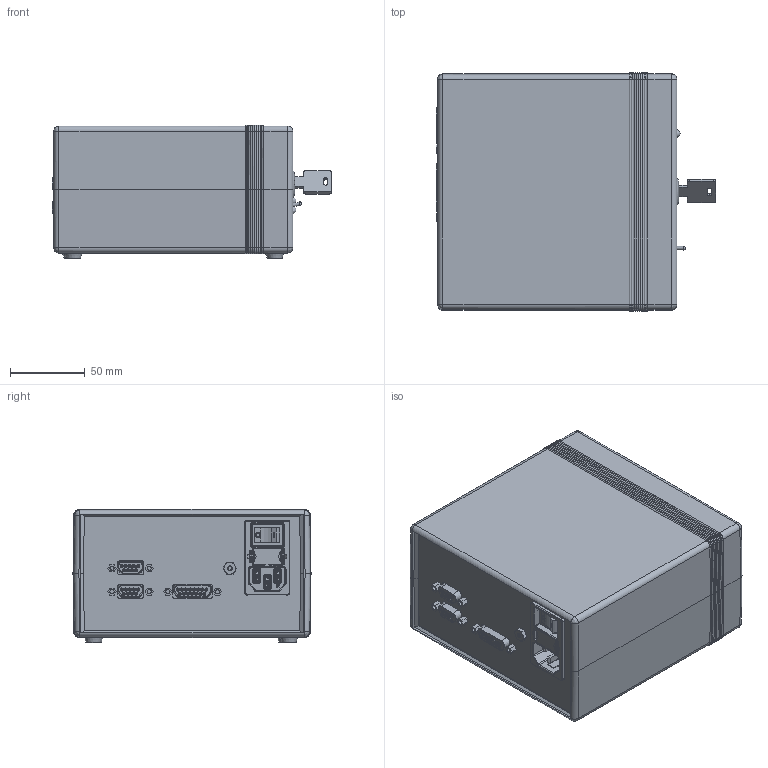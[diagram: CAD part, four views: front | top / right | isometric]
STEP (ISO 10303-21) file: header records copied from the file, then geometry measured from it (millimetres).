
FILE_DESCRIPTION (( 'STEP AP214' ), '1' );
FILE_NAME ('SIU-1000.STEP', '2023-07-24T16:56:14', ( '' ), ( '' ), 'SwSTEP 2.0', 'SolidWorks 2023', '' );
FILE_SCHEMA (( 'AUTOMOTIVE_DESIGN' ));
Products named in the file (1): SIU-1000
Bounding box: 187.13 x 159.65 x 89.51 mm (x, y, z)
Volume: 382575.8 mm3; surface area: 253711 mm2
Topology: 2 solids, 4 shells, 4434 faces, 11810 edges, 7597 vertices
Faces by surface type: plane 3017, bspline 680, cylinder 583, cone 99, sphere 37, torus 18
Full cylindrical faces by diameter (mm): 0.546 x4, 1 x66, 1.4 x5, 2.4 x2, 2.5 x1, 2.578 x5, 2.8 x26, 3.1 x1, 3.175 x1, 3.5 x2, 4 x2, 4.928 x2, 5 x1, 5.004 x1, 5.385 x2, 6.35 x1, 8.4 x8
Entity records: 162431 total; most frequent: CARTESIAN_POINT 58554, ORIENTED_EDGE 22792, DIRECTION 18489, EDGE_CURVE 11396, LINE 8803, VECTOR 8803, VERTEX_POINT 7449, EDGE_LOOP 5111
